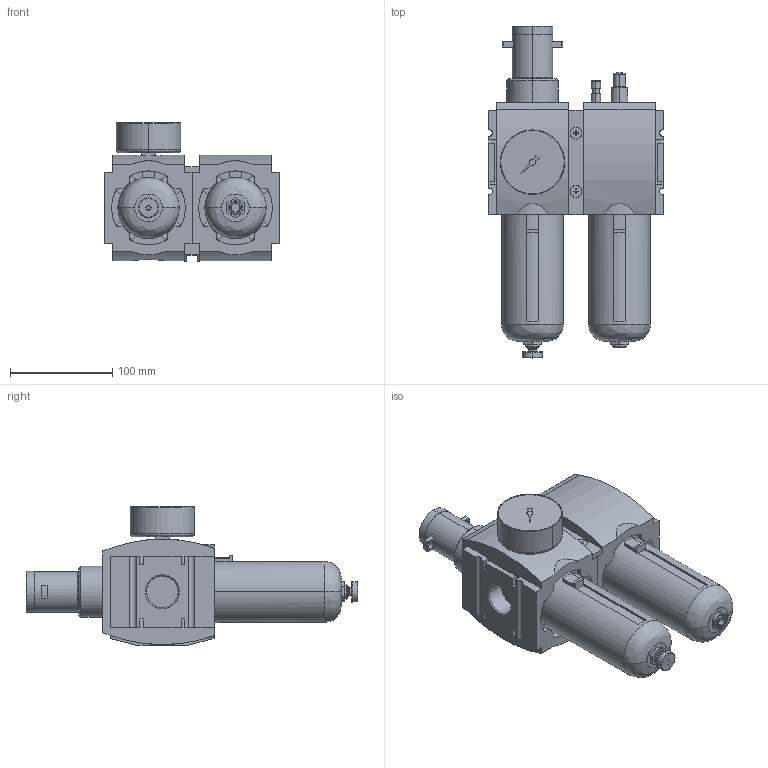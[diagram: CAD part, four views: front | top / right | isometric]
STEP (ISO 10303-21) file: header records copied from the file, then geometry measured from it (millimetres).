
FILE_DESCRIPTION((''),'2;1');
FILE_NAME('R412009307_ASM','2019-08-28T',('PDH2HC'),(''),'CREO PARAMETRIC BY PTC INC, 2016260','CREO PARAMETRIC BY PTC INC, 2016260','');
FILE_SCHEMA(('CONFIG_CONTROL_DESIGN'));
Length unit declared in the file: millimetre
Products named in the file (12): R412009209_1; AS5_RES_FILTER-SEMI_1; AS5_DRAIN_KNOB_PC_1; R412004423_1; AS5_PLUG_14_1; R412009231_1; AS5_RES_LUBRICATOR_1; R412009371_1_1; R412009371_1_2; R412009371_1_ASM; R412009307_ASM_1_ASM; R412009307_ASM
Assembly tree (11 placements, depth 4):
  R412009307_ASM
    R412009307_ASM_1_ASM
      R412009209_1
      AS5_RES_FILTER-SEMI_1
      AS5_DRAIN_KNOB_PC_1
      R412004423_1
      AS5_PLUG_14_1
      R412009231_1
      AS5_RES_LUBRICATOR_1
      R412009371_1_ASM
        R412009371_1_1
        R412009371_1_2
Bounding box: 170 x 324.3 x 135 mm (x, y, z)
Volume: 2459263.3 mm3; surface area: 259314.8 mm2
Topology: 9 solids, 9 shells, 650 faces, 1672 edges, 1107 vertices
Faces by surface type: plane 433, cylinder 151, cone 46, torus 16, bspline 4
Entity records: 20390 total; most frequent: CARTESIAN_POINT 3756, DIRECTION 3503, ORIENTED_EDGE 3344, EDGE_CURVE 1672, AXIS2_PLACEMENT_3D 1168, VECTOR 1167, LINE 1167, VERTEX_POINT 1107
